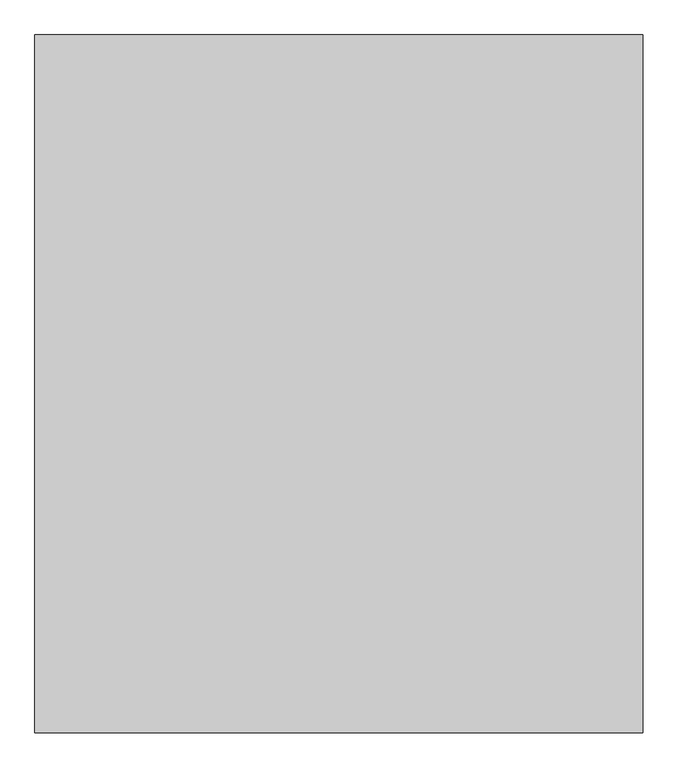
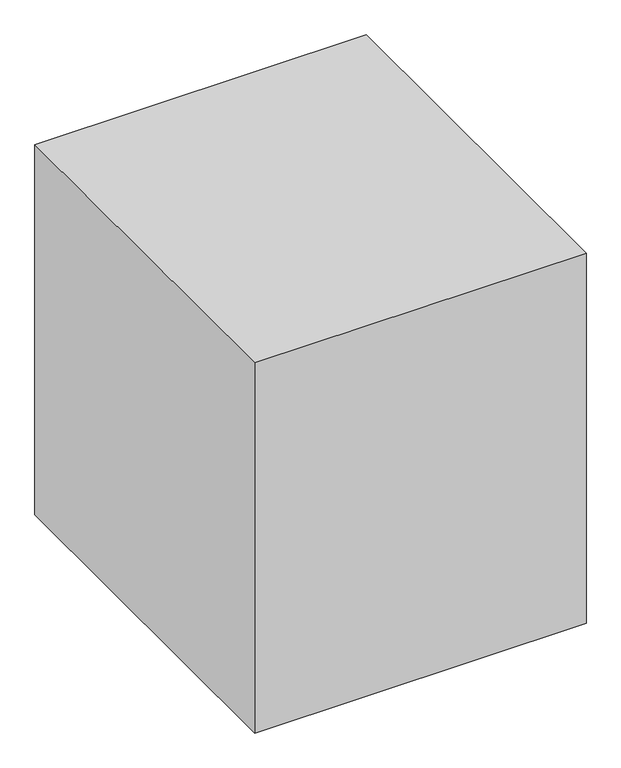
"""IFC4 building model written with IfcOpenShell, lengths in millimetres: proxy geometry."""

import ifcopenshell
import ifcopenshell.guid

model = None  # the IFC model being written
_history = None  # IfcOwnerHistory: only IFC2X3 demands one
_inside = {}  # id of a spatial element -> (the spatial element, [elements in it])
_under = {}  # id of a project, library or spatial element -> (it, [spatial elements below it])
_declared = {}  # id of a project -> (the project, [libraries it declares])
_typed = {}  # id of a type object -> (the type object, [elements of that type])
_made_of = {}  # id of a material, layer set ... -> (it, [elements and type objects made of it])


def new_model(schema):
    """Start an empty IFC model of exactly this schema.

    Asked for "IFC4X3", IfcOpenShell would pick the latest addendum, in which some entities
    have other attributes; the version numbers below select the first issue.
    IFC2X3 requires an IfcOwnerHistory on every rooted entity: one is made here for all.
    """
    global model, _history
    if schema == "IFC4X3":
        model = ifcopenshell.file(schema_version=(4, 3, 0, 0))
    else:
        model = ifcopenshell.file(schema=schema)
    _inside.clear()
    _under.clear()
    _declared.clear()
    _typed.clear()
    _made_of.clear()
    _history = None
    if model.schema == "IFC2X3":
        org = make("IfcOrganization", Name="unknown")
        user = make(
            "IfcPersonAndOrganization",
            ThePerson=make("IfcPerson", FamilyName="unknown"),
            TheOrganization=org,
        )
        app = make(
            "IfcApplication",
            ApplicationDeveloper=org,
            Version="unknown",
            ApplicationFullName="unknown",
            ApplicationIdentifier="unknown",
        )
        _history = make(
            "IfcOwnerHistory",
            OwningUser=user,
            OwningApplication=app,
            ChangeAction="ADDED",
            CreationDate=0,
        )
    return model


def make(cls, **values):
    """One entity of the class cls with the attributes given. An attribute that is None is left unset."""
    return model.create_entity(
        cls, **{name: value for name, value in values.items() if value is not None}
    )


def rooted(cls, **values):
    """An entity with a GlobalId (a new one), such as an element, a storey or a relation."""
    return make(cls, GlobalId=ifcopenshell.guid.new(), OwnerHistory=_history, **values)


def si_unit(unit_type, name, prefix=None):
    """IfcSIUnit, for example si_unit("LENGTHUNIT", "METRE", prefix="MILLI")."""
    return make("IfcSIUnit", UnitType=unit_type, Prefix=prefix, Name=name)


def assignment(units):
    """IfcUnitAssignment: the units of a project."""
    return None if units is None else make("IfcUnitAssignment", Units=units)


def point(xyz):
    """IfcCartesianPoint."""
    return None if xyz is None else make("IfcCartesianPoint", Coordinates=xyz)


def direction(xyz):
    """IfcDirection."""
    return None if xyz is None else make("IfcDirection", DirectionRatios=xyz)


def frame(location, z_axis=None, x_axis=None):
    """IfcAxis2Placement3D, a coordinate frame: its origin and axes. An axis left out is left unset."""
    return make(
        "IfcAxis2Placement3D",
        Location=point(location),
        Axis=direction(z_axis),
        RefDirection=direction(x_axis),
    )


def origin():
    """The frame at (0, 0, 0) with its axes left unset."""
    return frame((0.0, 0.0, 0.0))


def origin_with_axes():
    """The frame at (0, 0, 0) with the z axis (0, 0, 1) and the x axis (1, 0, 0) written out."""
    return frame((0.0, 0.0, 0.0), z_axis=(0.0, 0.0, 1.0), x_axis=(1.0, 0.0, 0.0))


def place(relative_to, where):
    """IfcLocalPlacement: puts the frame where relative to a parent placement (None: the world)."""
    return make(
        "IfcLocalPlacement", PlacementRelTo=relative_to, RelativePlacement=where
    )


def context(
    kind, dimensions, precision=None, world=None, true_north=None, identifier=None
):
    """IfcGeometricRepresentationContext, for example the 3D "Model" context."""
    return make(
        "IfcGeometricRepresentationContext",
        ContextIdentifier=identifier,
        ContextType=kind,
        CoordinateSpaceDimension=dimensions,
        Precision=precision,
        WorldCoordinateSystem=world,
        TrueNorth=true_north,
    )


def project(units=None, contexts=None):
    """IfcProject with its units and contexts."""
    return rooted(
        "IfcProject",
        Name="project",
        RepresentationContexts=contexts,
        UnitsInContext=assignment(units),
    )


def spatial(cls, under=None, at=None, **own):
    """A site, building, storey or space (cls), placed at a placement, below another one or the project."""
    s = rooted(cls, ObjectPlacement=at, **own)
    if under is not None:
        _under.setdefault(under.id(), (under, []))[1].append(s)
    return s


def polyline(points):
    """IfcPolyline through the points."""
    return make("IfcPolyline", Points=[point(p) for p in points])


def outline(outer, holes=None, kind="AREA"):
    """IfcArbitraryClosedProfileDef: a profile drawn as a closed curve; with holes, ...WithVoids."""
    if holes is None:
        return make("IfcArbitraryClosedProfileDef", ProfileType=kind, OuterCurve=outer)
    return make(
        "IfcArbitraryProfileDefWithVoids",
        ProfileType=kind,
        OuterCurve=outer,
        InnerCurves=holes,
    )


def extrude(swept, where, along, depth):
    """IfcExtrudedAreaSolid: the profile swept, set in the frame where, extruded along a direction by depth."""
    return make(
        "IfcExtrudedAreaSolid",
        SweptArea=swept,
        Position=where,
        ExtrudedDirection=direction(along),
        Depth=depth,
    )


def shape(context_of_items, identifier, shape_type, items):
    """IfcShapeRepresentation: the items that make up one representation, for example the "Body"."""
    return make(
        "IfcShapeRepresentation",
        ContextOfItems=context_of_items,
        RepresentationIdentifier=identifier,
        RepresentationType=shape_type,
        Items=items,
    )


def source(mapping_origin, context_of_items, identifier, shape_type, items):
    """IfcRepresentationMap: a shape defined once, which mapped items show again and again."""
    return make(
        "IfcRepresentationMap",
        MappingOrigin=mapping_origin,
        MappedRepresentation=shape(context_of_items, identifier, shape_type, items),
    )


def transform(
    local_origin,
    x_axis=None,
    y_axis=None,
    z_axis=None,
    scale=None,
    scale2=None,
    scale3=None,
    uniform=True,
):
    """IfcCartesianTransformationOperator3D, or its non-uniform kind. x_axis, y_axis, z_axis: its Axis1, 2, 3."""
    if uniform:
        return make(
            "IfcCartesianTransformationOperator3D",
            Axis1=direction(x_axis),
            Axis2=direction(y_axis),
            LocalOrigin=point(local_origin),
            Scale=scale,
            Axis3=direction(z_axis),
        )
    return make(
        "IfcCartesianTransformationOperator3DnonUniform",
        Axis1=direction(x_axis),
        Axis2=direction(y_axis),
        LocalOrigin=point(local_origin),
        Scale=scale,
        Axis3=direction(z_axis),
        Scale2=scale2,
        Scale3=scale3,
    )


def mapped(mapping_source, mapping_target):
    """IfcMappedItem: shows the shape of a source again, moved by a transform."""
    return make(
        "IfcMappedItem", MappingSource=mapping_source, MappingTarget=mapping_target
    )


def made_of(thing, what):
    """Note that an element or type object is made of a material, layer set ...; save() writes the relation."""
    if what is not None:
        _made_of.setdefault(what.id(), (what, []))[1].append(thing)
    return thing


def element(
    cls,
    number,
    at=None,
    inside=None,
    cuts=None,
    type_object=None,
    material=None,
    context=None,
    identifier="Body",
    shape_type=None,
    held_by="IfcProductDefinitionShape",
    body=None,
    shapes=None,
    **own,
):
    """One element of the class cls, such as IfcWall. Its Tag is "e" and its number.

    at: its placement. inside: the storey or other place that contains it. cuts: it is an
    opening in that element (IfcRelVoidsElement). A single representation is given by context,
    identifier, shape_type and body (its items); several are given by shapes. held_by: the class
    of the entity that holds the representations. save() writes the other relations.
    """
    e = rooted(cls, Tag="e%d" % number, ObjectPlacement=at, **own)
    if body is not None:
        shapes = [shape(context, identifier, shape_type, body)]
    if shapes is not None:
        e.Representation = make(held_by, Representations=shapes)
    if inside is not None:
        _inside.setdefault(inside.id(), (inside, []))[1].append(e)
    if cuts is not None:
        rooted(
            "IfcRelVoidsElement", RelatingBuildingElement=cuts, RelatedOpeningElement=e
        )
    if type_object is not None:
        _typed.setdefault(type_object.id(), (type_object, []))[1].append(e)
    return made_of(e, material)


def aggregate(whole, parts):
    """IfcRelAggregates: a whole, such as a stair, and the parts it consists of."""
    return rooted("IfcRelAggregates", RelatingObject=whole, RelatedObjects=parts)


def save(model, path):
    """Write the relations noted so far, then the file.

    IfcRelAggregates (storeys below a building ...), IfcRelContainedInSpatialStructure (elements
    in a storey), IfcRelDefinesByType, IfcRelAssociatesMaterial and IfcRelDeclares: one each for
    every whole, place, type object, material and project.
    """
    for whole, parts in _under.values():
        aggregate(whole, parts)
    for where, things in _inside.values():
        rooted(
            "IfcRelContainedInSpatialStructure",
            RelatedElements=things,
            RelatingStructure=where,
        )
    for kind, things in _typed.values():
        rooted("IfcRelDefinesByType", RelatedObjects=things, RelatingType=kind)
    for what, things in _made_of.values():
        rooted("IfcRelAssociatesMaterial", RelatedObjects=things, RelatingMaterial=what)
    for by, libraries in _declared.values():
        rooted("IfcRelDeclares", RelatingContext=by, RelatedDefinitions=libraries)
    model.write(path)


def generic_models_39cdb001(model_context):
    return source(origin(), model_context, "Body", "SweptSolid", [
        extrude(outline(polyline([(-104066.1304765, -29780.7903364), (-104066.1304765, -27350.7903364), (-101948.3455046, -27350.7903364), (-101948.3455046, -29780.7903364), (-104066.1304765, -29780.7903364)])), origin_with_axes(), (0.0, 0.0, 1.0), 2500.0),
    ])


if __name__ == "__main__":
    model = new_model("IFC4")
    model_context = context("Model", 3, world=origin())
    ifc_project = project(units=[si_unit("LENGTHUNIT", "METRE", prefix="MILLI")], contexts=[model_context])
    site = spatial("IfcSite", under=ifc_project)
    building = spatial("IfcBuilding", under=site)
    placement = place(None, origin())
    generic_models_shape = generic_models_39cdb001(model_context)
    element("IfcBuildingElementProxy", 1, Name="Generic Models", at=placement, inside=building, context=model_context, shape_type="MappedRepresentation", body=[
        mapped(generic_models_shape, transform((0.0, 0.0, 0.0), x_axis=(1.0, 0.0, 0.0), y_axis=(0.0, 1.0, 0.0), z_axis=(0.0, 0.0, 1.0))),
    ])
    save(model, "model.ifc")
